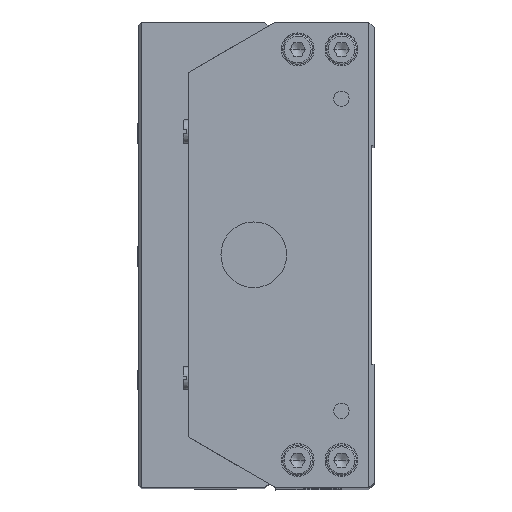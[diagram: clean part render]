
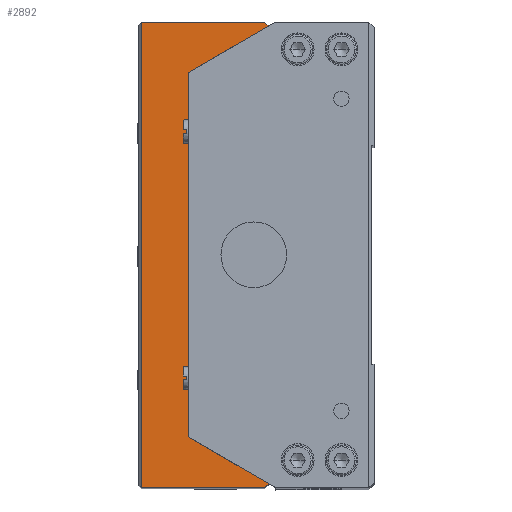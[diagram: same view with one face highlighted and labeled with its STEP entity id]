
A CAD part, top view. The second image highlights one B-rep face of the part: STEP entity #2892.
In plain terms, the highlighted planar face has unit normal (0, 0, 1).
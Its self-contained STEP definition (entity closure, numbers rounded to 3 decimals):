
#12 = VERTEX_POINT ( 'NONE', #23315 ) ;
#13 = VERTEX_POINT ( 'NONE', #23314 ) ;
#15 = EDGE_CURVE ( 'NONE', #13, #12, #23313, .T. ) ;
#1087 = EDGE_CURVE ( 'NONE', #22386, #12, #25780, .T. ) ;
#1101 = EDGE_CURVE ( 'NONE', #1103, #1104, #25847, .T. ) ;
#1103 = VERTEX_POINT ( 'NONE', #25821 ) ;
#1104 = VERTEX_POINT ( 'NONE', #25819 ) ;
#1132 = EDGE_CURVE ( 'NONE', #1103, #22358, #25958, .T. ) ;
#1153 = EDGE_CURVE ( 'NONE', #22358, #22386, #26081, .T. ) ;
#1190 = VERTEX_POINT ( 'NONE', #26196 ) ;
#1225 = VERTEX_POINT ( 'NONE', #26280 ) ;
#1229 = EDGE_CURVE ( 'NONE', #1190, #1225, #26260, .T. ) ;
#2681 = VERTEX_POINT ( 'NONE', #25488 ) ;
#2686 = EDGE_CURVE ( 'NONE', #13, #2681, #25477, .T. ) ;
#2723 = EDGE_CURVE ( 'NONE', #2725, #1190, #25588, .T. ) ;
#2725 = VERTEX_POINT ( 'NONE', #25583 ) ;
#2851 = EDGE_CURVE ( 'NONE', #2852, #1104, #25957, .T. ) ;
#2852 = VERTEX_POINT ( 'NONE', #25950 ) ;
#2860 = EDGE_LOOP ( 'NONE', ( #2894, #2897, #2899, #2901, #2903, #2905, #2907, #2912, #2946, #2948, #2954, #2876 ) ) ;
#2876 = ORIENTED_EDGE ( 'NONE', *, *, #2851, .T. ) ;
#2892 = ADVANCED_FACE ( 'NONE', ( #26082 ), #26077, .T. ) ;
#2894 = ORIENTED_EDGE ( 'NONE', *, *, #1101, .F. ) ;
#2897 = ORIENTED_EDGE ( 'NONE', *, *, #1132, .T. ) ;
#2899 = ORIENTED_EDGE ( 'NONE', *, *, #1153, .T. ) ;
#2901 = ORIENTED_EDGE ( 'NONE', *, *, #1087, .T. ) ;
#2903 = ORIENTED_EDGE ( 'NONE', *, *, #15, .F. ) ;
#2905 = ORIENTED_EDGE ( 'NONE', *, *, #2686, .T. ) ;
#2907 = ORIENTED_EDGE ( 'NONE', *, *, #2910, .T. ) ;
#2910 = EDGE_CURVE ( 'NONE', #2681, #2725, #26039, .T. ) ;
#2912 = ORIENTED_EDGE ( 'NONE', *, *, #2723, .T. ) ;
#2946 = ORIENTED_EDGE ( 'NONE', *, *, #1229, .T. ) ;
#2948 = ORIENTED_EDGE ( 'NONE', *, *, #2951, .F. ) ;
#2951 = EDGE_CURVE ( 'NONE', #2952, #1225, #26161, .T. ) ;
#2952 = VERTEX_POINT ( 'NONE', #26152 ) ;
#2954 = ORIENTED_EDGE ( 'NONE', *, *, #2956, .F. ) ;
#2956 = EDGE_CURVE ( 'NONE', #2852, #2952, #25294, .T. ) ;
#22358 = VERTEX_POINT ( 'NONE', #64943 ) ;
#22386 = VERTEX_POINT ( 'NONE', #65251 ) ;
#23312 = CARTESIAN_POINT ( 'NONE',  ( -14.36, -59.17, 211.374 ) ) ;
#23313 = LINE ( 'NONE', #23312, #23374 ) ;
#23314 = CARTESIAN_POINT ( 'NONE',  ( -13.86, -58.67, 211.374 ) ) ;
#23315 = CARTESIAN_POINT ( 'NONE',  ( -14.86, -59.67, 211.374 ) ) ;
#23373 = DIRECTION ( 'NONE',  ( -0.707, -0.707, 0. ) ) ;
#23374 = VECTOR ( 'NONE', #23373, 1000. ) ;
#25293 = CARTESIAN_POINT ( 'NONE',  ( -24.91, 15.383, 211.374 ) ) ;
#25294 = LINE ( 'NONE', #25293, #25677 ) ;
#25474 = DIRECTION ( 'NONE',  ( 0., 1., 0. ) ) ;
#25475 = VECTOR ( 'NONE', #25474, 1000. ) ;
#25476 = CARTESIAN_POINT ( 'NONE',  ( -13.86, 25.33, 211.374 ) ) ;
#25477 = LINE ( 'NONE', #25476, #25475 ) ;
#25488 = CARTESIAN_POINT ( 'NONE',  ( -13.86, -49.617, 211.374 ) ) ;
#25583 = CARTESIAN_POINT ( 'NONE',  ( -26.56, -49.617, 211.374 ) ) ;
#25584 = DIRECTION ( 'NONE',  ( 0., -1., 0. ) ) ;
#25585 = DIRECTION ( 'NONE',  ( 0., 0., -1. ) ) ;
#25586 = CARTESIAN_POINT ( 'NONE',  ( -26.56, -48.017, 211.374 ) ) ;
#25587 = AXIS2_PLACEMENT_3D ( 'NONE', #25586, #25585, #25584 ) ;
#25588 = CIRCLE ( 'NONE', #25587, 1.6 ) ;
#25677 = VECTOR ( 'NONE', #31026, 1000. ) ;
#25774 = DIRECTION ( 'NONE',  ( 1., 0., 0. ) ) ;
#25775 = VECTOR ( 'NONE', #25774, 1000. ) ;
#25778 = CARTESIAN_POINT ( 'NONE',  ( -29.86, -59.67, 211.374 ) ) ;
#25780 = LINE ( 'NONE', #25778, #25775 ) ;
#25819 = CARTESIAN_POINT ( 'NONE',  ( -13.86, 24.33, 211.374 ) ) ;
#25821 = CARTESIAN_POINT ( 'NONE',  ( -14.86, 25.33, 211.374 ) ) ;
#25832 = DIRECTION ( 'NONE',  ( 0.707, -0.707, 0. ) ) ;
#25833 = VECTOR ( 'NONE', #25832, 1000. ) ;
#25846 = CARTESIAN_POINT ( 'NONE',  ( -14.36, 24.83, 211.374 ) ) ;
#25847 = LINE ( 'NONE', #25846, #25833 ) ;
#25950 = CARTESIAN_POINT ( 'NONE',  ( -13.86, 15.383, 211.374 ) ) ;
#25952 = DIRECTION ( 'NONE',  ( -1., 0., 0. ) ) ;
#25951 = DIRECTION ( 'NONE',  ( 0., 1., 0. ) ) ;
#25954 = VECTOR ( 'NONE', #25952, 1000. ) ;
#25953 = VECTOR ( 'NONE', #25951, 1000. ) ;
#25955 = CARTESIAN_POINT ( 'NONE',  ( -13.86, 25.33, 211.374 ) ) ;
#25956 = CARTESIAN_POINT ( 'NONE',  ( -29.86, 25.33, 211.374 ) ) ;
#25957 = LINE ( 'NONE', #25955, #25953 ) ;
#25958 = LINE ( 'NONE', #25956, #25954 ) ;
#26034 = DIRECTION ( 'NONE',  ( -1., 0., 0. ) ) ;
#26036 = VECTOR ( 'NONE', #26034, 1000. ) ;
#26038 = CARTESIAN_POINT ( 'NONE',  ( -24.91, -49.617, 211.374 ) ) ;
#26039 = LINE ( 'NONE', #26038, #26036 ) ;
#26073 = DIRECTION ( 'NONE',  ( 0., -1., 0. ) ) ;
#26074 = DIRECTION ( 'NONE',  ( 0., 0., 1. ) ) ;
#26075 = CARTESIAN_POINT ( 'NONE',  ( -29.86, 25.33, 211.374 ) ) ;
#26076 = AXIS2_PLACEMENT_3D ( 'NONE', #26075, #26074, #26073 ) ;
#26077 = PLANE ( 'NONE',  #26076 ) ;
#26078 = DIRECTION ( 'NONE',  ( 0., -1., 0. ) ) ;
#26079 = VECTOR ( 'NONE', #26078, 1000. ) ;
#26080 = CARTESIAN_POINT ( 'NONE',  ( -37.36, 25.33, 211.374 ) ) ;
#26081 = LINE ( 'NONE', #26080, #26079 ) ;
#26082 = FACE_OUTER_BOUND ( 'NONE', #2860, .T. ) ;
#26152 = CARTESIAN_POINT ( 'NONE',  ( -26.56, 15.383, 211.374 ) ) ;
#26154 = DIRECTION ( 'NONE',  ( 0., 1., 0. ) ) ;
#26156 = DIRECTION ( 'NONE',  ( 0., 0., 1. ) ) ;
#26158 = CARTESIAN_POINT ( 'NONE',  ( -26.56, 13.783, 211.374 ) ) ;
#26159 = AXIS2_PLACEMENT_3D ( 'NONE', #26158, #26156, #26154 ) ;
#26161 = CIRCLE ( 'NONE', #26159, 1.6 ) ;
#26196 = CARTESIAN_POINT ( 'NONE',  ( -28.16, -48.017, 211.374 ) ) ;
#26260 = LINE ( 'NONE', #26272, #26271 ) ;
#26271 = VECTOR ( 'NONE', #26383, 1000. ) ;
#26272 = CARTESIAN_POINT ( 'NONE',  ( -28.16, 25.33, 211.374 ) ) ;
#26280 = CARTESIAN_POINT ( 'NONE',  ( -28.16, 13.783, 211.374 ) ) ;
#26383 = DIRECTION ( 'NONE',  ( 0., 1., 0. ) ) ;
#31026 = DIRECTION ( 'NONE',  ( -1., 0., 0. ) ) ;
#64943 = CARTESIAN_POINT ( 'NONE',  ( -37.36, 25.33, 211.374 ) ) ;
#65251 = CARTESIAN_POINT ( 'NONE',  ( -37.36, -59.67, 211.374 ) ) ;
